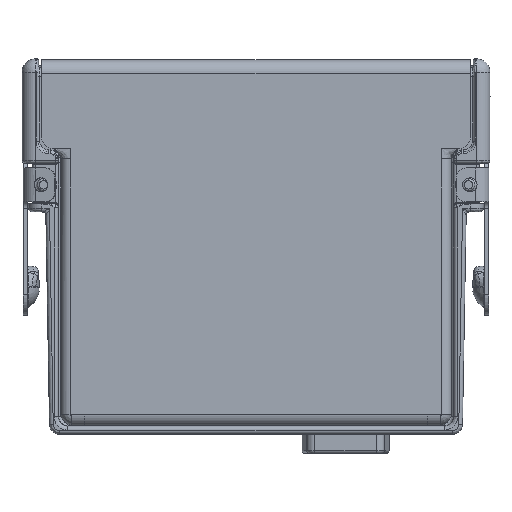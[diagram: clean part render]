
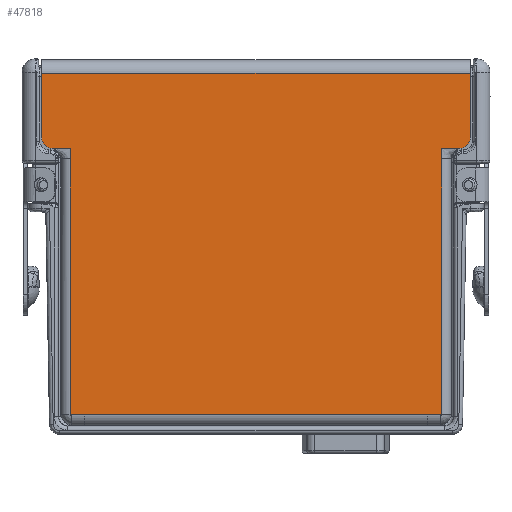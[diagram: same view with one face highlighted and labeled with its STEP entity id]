
A CAD part, left-side view. The second image highlights one B-rep face of the part: STEP entity #47818.
In plain terms, the highlighted planar face has unit normal (-1, 0, 0).
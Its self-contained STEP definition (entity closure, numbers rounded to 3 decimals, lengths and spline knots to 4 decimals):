
#17720=DIRECTION('',(0.,-1.,0.));
#17721=VECTOR('',#17720,2.543);
#17722=CARTESIAN_POINT('',(-0.4475,1.2715,0.146));
#17723=LINE('',#17722,#17721);
#17732=DIRECTION('',(0.,0.,-1.));
#17733=VECTOR('',#17732,0.476);
#17734=CARTESIAN_POINT('',(-0.4475,1.5895,2.676));
#17735=LINE('',#17734,#17733);
#17736=DIRECTION('',(0.,0.,1.));
#17737=VECTOR('',#17736,0.476);
#17738=CARTESIAN_POINT('',(-0.4475,-1.5895,2.2));
#17739=LINE('',#17738,#17737);
#17740=DIRECTION('',(0.,0.,1.));
#17741=VECTOR('',#17740,0.079);
#17742=CARTESIAN_POINT('',(-0.4475,-1.3765,2.041));
#17743=LINE('',#17742,#17741);
#17744=DIRECTION('',(0.,-1.,0.));
#17745=VECTOR('',#17744,0.105);
#17746=CARTESIAN_POINT('',(-0.4475,-1.2715,0.146));
#17747=LINE('',#17746,#17745);
#17748=DIRECTION('',(0.,-1.,0.));
#17749=VECTOR('',#17748,0.105);
#17750=CARTESIAN_POINT('',(-0.4475,1.3765,0.146));
#17751=LINE('',#17750,#17749);
#17752=DIRECTION('',(0.,0.,1.));
#17753=VECTOR('',#17752,0.079);
#17754=CARTESIAN_POINT('',(-0.4475,1.3765,2.041));
#17755=LINE('',#17754,#17753);
#17769=CARTESIAN_POINT('',(-0.4475,1.5095,2.2));
#17770=DIRECTION('',(-1.,0.,0.));
#17771=DIRECTION('',(0.,1.,0.));
#17772=AXIS2_PLACEMENT_3D('',#17769,#17770,#17771);
#17774=DIRECTION('',(0.,-1.,0.));
#17775=VECTOR('',#17774,0.133);
#17776=CARTESIAN_POINT('',(-0.4475,1.5095,2.12));
#17777=LINE('',#17776,#17775);
#17794=DIRECTION('',(0.,0.,1.));
#17795=VECTOR('',#17794,1.895);
#17796=CARTESIAN_POINT('',(-0.4475,1.3765,0.146));
#17797=LINE('',#17796,#17795);
#18249=DIRECTION('',(0.,0.,1.));
#18250=VECTOR('',#18249,1.895);
#18251=CARTESIAN_POINT('',(-0.4475,-1.3765,0.146));
#18252=LINE('',#18251,#18250);
#18284=DIRECTION('',(0.,-1.,0.));
#18285=VECTOR('',#18284,0.133);
#18286=CARTESIAN_POINT('',(-0.4475,-1.3765,2.12));
#18287=LINE('',#18286,#18285);
#18301=CARTESIAN_POINT('',(-0.4475,-1.5095,2.2));
#18302=DIRECTION('',(-1.,0.,0.));
#18303=DIRECTION('',(0.,0.,-1.));
#18304=AXIS2_PLACEMENT_3D('',#18301,#18302,#18303);
#18323=DIRECTION('',(0.,-1.,0.));
#18324=VECTOR('',#18323,3.179);
#18325=CARTESIAN_POINT('',(-0.4475,1.5895,2.676));
#18326=LINE('',#18325,#18324);
#24201=CARTESIAN_POINT('',(-0.4475,-1.5895,2.676));
#24202=VERTEX_POINT('',#24201);
#24203=CARTESIAN_POINT('',(-0.4475,1.5895,2.676));
#24204=VERTEX_POINT('',#24203);
#24233=CARTESIAN_POINT('',(-0.4475,1.2715,0.146));
#24234=CARTESIAN_POINT('',(-0.4475,-1.2715,0.146));
#24235=VERTEX_POINT('',#24233);
#24236=VERTEX_POINT('',#24234);
#24245=CARTESIAN_POINT('',(-0.4475,-1.3765,0.146));
#24246=VERTEX_POINT('',#24245);
#24257=CARTESIAN_POINT('',(-0.4475,1.3765,0.146));
#24258=VERTEX_POINT('',#24257);
#24306=CARTESIAN_POINT('',(-0.4475,1.5095,2.12));
#24308=VERTEX_POINT('',#24306);
#24311=CARTESIAN_POINT('',(-0.4475,1.5895,2.2));
#24312=VERTEX_POINT('',#24311);
#24314=CARTESIAN_POINT('',(-0.4475,-1.5895,2.2));
#24316=VERTEX_POINT('',#24314);
#24319=CARTESIAN_POINT('',(-0.4475,-1.5095,2.12));
#24320=VERTEX_POINT('',#24319);
#24333=CARTESIAN_POINT('',(-0.4475,-1.3765,2.041));
#24334=VERTEX_POINT('',#24333);
#24337=CARTESIAN_POINT('',(-0.4475,-1.3765,2.12));
#24338=VERTEX_POINT('',#24337);
#24345=CARTESIAN_POINT('',(-0.4475,1.3765,2.041));
#24346=CARTESIAN_POINT('',(-0.4475,1.3765,2.12));
#24347=VERTEX_POINT('',#24345);
#24348=VERTEX_POINT('',#24346);
#47785=CARTESIAN_POINT('',(-0.4475,0.,1.421));
#47786=DIRECTION('',(-1.,0.,0.));
#47787=DIRECTION('',(0.,1.,0.));
#47788=AXIS2_PLACEMENT_3D('',#47785,#47786,#47787);
#47789=PLANE('',#47788);
#47791=ORIENTED_EDGE('',*,*,#47790,.F.);
#47793=ORIENTED_EDGE('',*,*,#47792,.F.);
#47795=ORIENTED_EDGE('',*,*,#47794,.T.);
#47797=ORIENTED_EDGE('',*,*,#47796,.F.);
#47799=ORIENTED_EDGE('',*,*,#47798,.F.);
#47801=ORIENTED_EDGE('',*,*,#47800,.F.);
#47803=ORIENTED_EDGE('',*,*,#47802,.F.);
#47805=ORIENTED_EDGE('',*,*,#47804,.F.);
#47806=ORIENTED_EDGE('',*,*,#47775,.F.);
#47807=ORIENTED_EDGE('',*,*,#47751,.F.);
#47809=ORIENTED_EDGE('',*,*,#47808,.F.);
#47811=ORIENTED_EDGE('',*,*,#47810,.T.);
#47813=ORIENTED_EDGE('',*,*,#47812,.T.);
#47815=ORIENTED_EDGE('',*,*,#47814,.F.);
#47816=EDGE_LOOP('',(#47791,#47793,#47795,#47797,#47799,#47801,#47803,#47805,
#47806,#47807,#47809,#47811,#47813,#47815));
#47817=FACE_OUTER_BOUND('',#47816,.F.);
#47818=ADVANCED_FACE('',(#47817),#47789,.T.);
#17773=CIRCLE('',#17772,0.08);
#18305=CIRCLE('',#18304,0.08);
#47751=EDGE_CURVE('',#24235,#24236,#17723,.T.);
#47775=EDGE_CURVE('',#24236,#24246,#17747,.T.);
#47790=EDGE_CURVE('',#24312,#24308,#17773,.T.);
#47792=EDGE_CURVE('',#24204,#24312,#17735,.T.);
#47794=EDGE_CURVE('',#24204,#24202,#18326,.T.);
#47796=EDGE_CURVE('',#24316,#24202,#17739,.T.);
#47798=EDGE_CURVE('',#24320,#24316,#18305,.T.);
#47800=EDGE_CURVE('',#24338,#24320,#18287,.T.);
#47802=EDGE_CURVE('',#24334,#24338,#17743,.T.);
#47804=EDGE_CURVE('',#24246,#24334,#18252,.T.);
#47808=EDGE_CURVE('',#24258,#24235,#17751,.T.);
#47810=EDGE_CURVE('',#24258,#24347,#17797,.T.);
#47812=EDGE_CURVE('',#24347,#24348,#17755,.T.);
#47814=EDGE_CURVE('',#24308,#24348,#17777,.T.);
